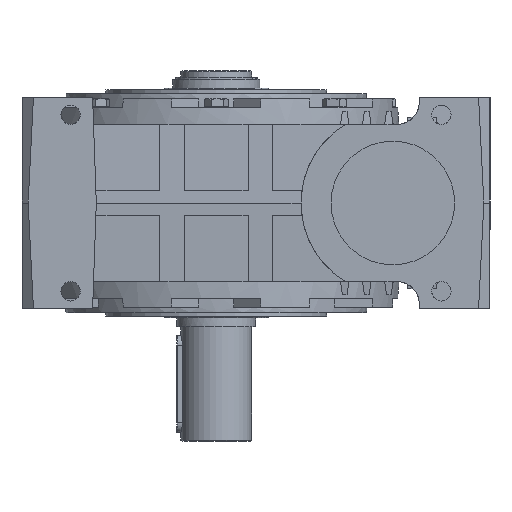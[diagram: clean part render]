
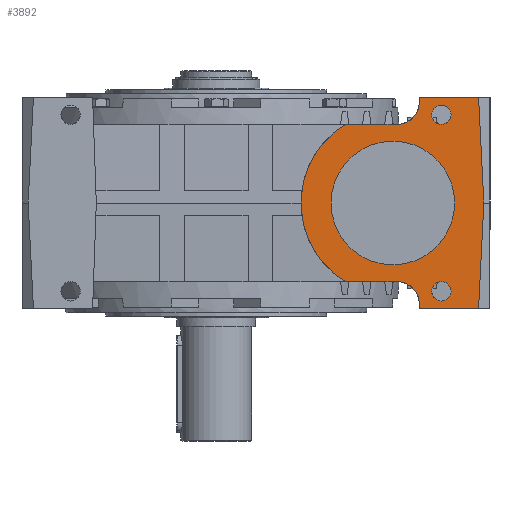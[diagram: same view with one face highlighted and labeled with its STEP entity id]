
A CAD part, left-side view. The second image highlights one B-rep face of the part: STEP entity #3892.
In plain terms, the highlighted planar face has unit normal (-1, 0, 0).
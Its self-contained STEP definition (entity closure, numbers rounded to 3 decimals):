
#179 = ORIENTED_EDGE ( 'NONE', *, *, #38904, .T. ) ;
#216 = DIRECTION ( 'NONE',  ( 0., 0., 1. ) ) ;
#803 = DIRECTION ( 'NONE',  ( 0., 0., 1. ) ) ;
#1051 = VERTEX_POINT ( 'NONE', #12705 ) ;
#1994 = AXIS2_PLACEMENT_3D ( 'NONE', #37428, #18966, #803 ) ;
#2609 = VECTOR ( 'NONE', #21041, 1000. ) ;
#2863 = LINE ( 'NONE', #5988, #2609 ) ;
#3107 = AXIS2_PLACEMENT_3D ( 'NONE', #31692, #13366, #34839 ) ;
#3398 = CARTESIAN_POINT ( 'NONE',  ( -220., -229.83, -113.128 ) ) ;
#3584 = CARTESIAN_POINT ( 'NONE',  ( -220., -204.845, 89. ) ) ;
#3892 = ADVANCED_FACE ( 'NONE', ( #31266, #31183, #31301, #31141 ), #22141, .T. ) ;
#4276 = CARTESIAN_POINT ( 'NONE',  ( -220., -96.253, 7.255 ) ) ;
#4312 = DIRECTION ( 'NONE',  ( 0., 0.035, -0.999 ) ) ;
#5036 = ORIENTED_EDGE ( 'NONE', *, *, #37507, .T. ) ;
#5295 = EDGE_CURVE ( 'NONE', #27912, #20663, #23610, .T. ) ;
#5395 = VERTEX_POINT ( 'NONE', #20271 ) ;
#5866 = VECTOR ( 'NONE', #24701, 1000. ) ;
#5894 = LINE ( 'NONE', #6545, #5866 ) ;
#5988 = CARTESIAN_POINT ( 'NONE',  ( -220., -96., 0. ) ) ;
#6167 = EDGE_LOOP ( 'NONE', ( #25550 ) ) ;
#6410 = LINE ( 'NONE', #8614, #6502 ) ;
#6502 = VECTOR ( 'NONE', #26807, 1000. ) ;
#6545 = CARTESIAN_POINT ( 'NONE',  ( -220., -297.074, -120. ) ) ;
#6802 = DIRECTION ( 'NONE',  ( 1., 0., 0. ) ) ;
#6970 = VERTEX_POINT ( 'NONE', #26951 ) ;
#6997 = CARTESIAN_POINT ( 'NONE',  ( -220., -200., 70. ) ) ;
#7123 = VERTEX_POINT ( 'NONE', #21519 ) ;
#7252 = CARTESIAN_POINT ( 'NONE',  ( -220., -255., -100. ) ) ;
#7326 = DIRECTION ( 'NONE',  ( 0., -1., 0. ) ) ;
#7625 = VERTEX_POINT ( 'NONE', #9639 ) ;
#7688 = ORIENTED_EDGE ( 'NONE', *, *, #11091, .T. ) ;
#7854 = ORIENTED_EDGE ( 'NONE', *, *, #18337, .T. ) ;
#8614 = CARTESIAN_POINT ( 'NONE',  ( -220., 220., -120. ) ) ;
#9135 = ORIENTED_EDGE ( 'NONE', *, *, #33436, .F. ) ;
#9326 = CARTESIAN_POINT ( 'NONE',  ( -220., -229.83, 113.128 ) ) ;
#9343 = EDGE_LOOP ( 'NONE', ( #7688, #37701, #10966, #23918, #23322, #27980, #17890, #28265, #36632, #179, #20025, #30659, #5036, #16032 ) ) ;
#9639 = CARTESIAN_POINT ( 'NONE',  ( -220., -297.074, 120. ) ) ;
#9803 = DIRECTION ( 'NONE',  ( 0., 0.035, -0.999 ) ) ;
#10310 = DIRECTION ( 'NONE',  ( 0., 0., 1. ) ) ;
#10459 = EDGE_CURVE ( 'NONE', #39428, #12838, #38537, .T. ) ;
#10720 = CARTESIAN_POINT ( 'NONE',  ( -220., -146.195, -89. ) ) ;
#10876 = VERTEX_POINT ( 'NONE', #3584 ) ;
#10966 = ORIENTED_EDGE ( 'NONE', *, *, #21116, .T. ) ;
#11091 = EDGE_CURVE ( 'NONE', #7625, #12855, #34487, .T. ) ;
#11420 = DIRECTION ( 'NONE',  ( 0., 1., 0. ) ) ;
#12644 = CARTESIAN_POINT ( 'NONE',  ( -220., -255., 100. ) ) ;
#12705 = CARTESIAN_POINT ( 'NONE',  ( -220., -303., 0. ) ) ;
#12838 = VERTEX_POINT ( 'NONE', #22915 ) ;
#12855 = VERTEX_POINT ( 'NONE', #19998 ) ;
#13170 = CARTESIAN_POINT ( 'NONE',  ( -220., 220., 120. ) ) ;
#13366 = DIRECTION ( 'NONE',  ( -1., 0., 0. ) ) ;
#13408 = CARTESIAN_POINT ( 'NONE',  ( -220., 0., 89. ) ) ;
#13556 = CARTESIAN_POINT ( 'NONE',  ( -220., -96.253, 7.255 ) ) ;
#13971 = CARTESIAN_POINT ( 'NONE',  ( -220., -204.845, 114. ) ) ;
#15178 = VECTOR ( 'NONE', #25891, 1000. ) ;
#15637 = CIRCLE ( 'NONE', #33051, 70. ) ;
#15690 = DIRECTION ( 'NONE',  ( 0., 0., 1. ) ) ;
#16032 = ORIENTED_EDGE ( 'NONE', *, *, #23030, .T. ) ;
#16039 = AXIS2_PLACEMENT_3D ( 'NONE', #7252, #28528, #10310 ) ;
#16090 = EDGE_CURVE ( 'NONE', #26402, #6970, #6410, .T. ) ;
#16213 = DIRECTION ( 'NONE',  ( 0., 0., 1. ) ) ;
#16598 = CARTESIAN_POINT ( 'NONE',  ( -220., -303., 0. ) ) ;
#17011 = DIRECTION ( 'NONE',  ( 0., 0., 1. ) ) ;
#17528 = LINE ( 'NONE', #16598, #15178 ) ;
#17890 = ORIENTED_EDGE ( 'NONE', *, *, #37966, .T. ) ;
#17980 = EDGE_CURVE ( 'NONE', #19459, #39428, #22906, .T. ) ;
#18063 = AXIS2_PLACEMENT_3D ( 'NONE', #24966, #6802, #28070 ) ;
#18337 = EDGE_CURVE ( 'NONE', #29230, #29230, #15637, .T. ) ;
#18382 = DIRECTION ( 'NONE',  ( 1., 0., 0. ) ) ;
#18966 = DIRECTION ( 'NONE',  ( -1., 0., 0. ) ) ;
#19459 = VERTEX_POINT ( 'NONE', #31566 ) ;
#19743 = CARTESIAN_POINT ( 'NONE',  ( -220., 220., -89. ) ) ;
#19998 = CARTESIAN_POINT ( 'NONE',  ( -220., -230.07, 120. ) ) ;
#20025 = ORIENTED_EDGE ( 'NONE', *, *, #24388, .T. ) ;
#20271 = CARTESIAN_POINT ( 'NONE',  ( -220., -229.83, -113.128 ) ) ;
#20424 = AXIS2_PLACEMENT_3D ( 'NONE', #12644, #34083, #15690 ) ;
#20663 = VERTEX_POINT ( 'NONE', #34462 ) ;
#21041 = DIRECTION ( 'NONE',  ( 0., -0.035, -0.999 ) ) ;
#21116 = EDGE_CURVE ( 'NONE', #23347, #10876, #39000, .T. ) ;
#21519 = CARTESIAN_POINT ( 'NONE',  ( -220., -96.253, -7.255 ) ) ;
#22141 = PLANE ( 'NONE',  #30747 ) ;
#22793 = DIRECTION ( 'NONE',  ( 0., -1., 0. ) ) ;
#22906 = CIRCLE ( 'NONE', #3107, 104. ) ;
#22915 = CARTESIAN_POINT ( 'NONE',  ( -220., -96., 0. ) ) ;
#23030 = EDGE_CURVE ( 'NONE', #1051, #7625, #17528, .T. ) ;
#23217 = CIRCLE ( 'NONE', #16039, 11. ) ;
#23322 = ORIENTED_EDGE ( 'NONE', *, *, #17980, .T. ) ;
#23347 = VERTEX_POINT ( 'NONE', #9326 ) ;
#23465 = EDGE_CURVE ( 'NONE', #7123, #27912, #38957, .T. ) ;
#23484 = VECTOR ( 'NONE', #22793, 1000. ) ;
#23610 = LINE ( 'NONE', #19743, #23484 ) ;
#23918 = ORIENTED_EDGE ( 'NONE', *, *, #25052, .F. ) ;
#24388 = EDGE_CURVE ( 'NONE', #5395, #26402, #34030, .T. ) ;
#24701 = DIRECTION ( 'NONE',  ( 0., -0.049, 0.999 ) ) ;
#24966 = CARTESIAN_POINT ( 'NONE',  ( -220., -204.845, -114. ) ) ;
#25052 = EDGE_CURVE ( 'NONE', #19459, #10876, #29754, .T. ) ;
#25550 = ORIENTED_EDGE ( 'NONE', *, *, #26302, .F. ) ;
#25891 = DIRECTION ( 'NONE',  ( 0., 0.049, 0.999 ) ) ;
#26134 = EDGE_LOOP ( 'NONE', ( #9135 ) ) ;
#26302 = EDGE_CURVE ( 'NONE', #28162, #28162, #23217, .T. ) ;
#26402 = VERTEX_POINT ( 'NONE', #38328 ) ;
#26807 = DIRECTION ( 'NONE',  ( 0., -1., 0. ) ) ;
#26809 = VERTEX_POINT ( 'NONE', #35236 ) ;
#26951 = CARTESIAN_POINT ( 'NONE',  ( -220., -297.074, -120. ) ) ;
#27826 = VECTOR ( 'NONE', #9803, 1000. ) ;
#27912 = VERTEX_POINT ( 'NONE', #10720 ) ;
#27980 = ORIENTED_EDGE ( 'NONE', *, *, #10459, .T. ) ;
#28070 = DIRECTION ( 'NONE',  ( 0., 0., 1. ) ) ;
#28099 = LINE ( 'NONE', #34278, #27826 ) ;
#28162 = VERTEX_POINT ( 'NONE', #34833 ) ;
#28265 = ORIENTED_EDGE ( 'NONE', *, *, #23465, .T. ) ;
#28528 = DIRECTION ( 'NONE',  ( -1., 0., 0. ) ) ;
#29230 = VERTEX_POINT ( 'NONE', #6997 ) ;
#29532 = VECTOR ( 'NONE', #7326, 1000. ) ;
#29754 = LINE ( 'NONE', #13408, #29532 ) ;
#30659 = ORIENTED_EDGE ( 'NONE', *, *, #16090, .T. ) ;
#30747 = AXIS2_PLACEMENT_3D ( 'NONE', #13170, #34625, #16213 ) ;
#31141 = FACE_BOUND ( 'NONE', #38313, .T. ) ;
#31183 = FACE_BOUND ( 'NONE', #26134, .T. ) ;
#31266 = FACE_BOUND ( 'NONE', #6167, .T. ) ;
#31301 = FACE_OUTER_BOUND ( 'NONE', #9343, .T. ) ;
#31566 = CARTESIAN_POINT ( 'NONE',  ( -220., -146.195, 89. ) ) ;
#31692 = CARTESIAN_POINT ( 'NONE',  ( -220., -200., 0. ) ) ;
#33051 = AXIS2_PLACEMENT_3D ( 'NONE', #36836, #18382, #216 ) ;
#33436 = EDGE_CURVE ( 'NONE', #26809, #26809, #36269, .T. ) ;
#34030 = LINE ( 'NONE', #3398, #34070 ) ;
#34070 = VECTOR ( 'NONE', #37209, 1000. ) ;
#34083 = DIRECTION ( 'NONE',  ( -1., 0., 0. ) ) ;
#34278 = CARTESIAN_POINT ( 'NONE',  ( -220., -230.07, 120. ) ) ;
#34449 = VECTOR ( 'NONE', #11420, 1000. ) ;
#34462 = CARTESIAN_POINT ( 'NONE',  ( -220., -204.845, -89. ) ) ;
#34478 = EDGE_CURVE ( 'NONE', #12855, #23347, #28099, .T. ) ;
#34487 = LINE ( 'NONE', #35937, #34449 ) ;
#34625 = DIRECTION ( 'NONE',  ( -1., 0., 0. ) ) ;
#34833 = CARTESIAN_POINT ( 'NONE',  ( -220., -255., -89. ) ) ;
#34839 = DIRECTION ( 'NONE',  ( 0., 0., 1. ) ) ;
#35236 = CARTESIAN_POINT ( 'NONE',  ( -220., -255., 111. ) ) ;
#35457 = DIRECTION ( 'NONE',  ( 1., 0., 0. ) ) ;
#35937 = CARTESIAN_POINT ( 'NONE',  ( -220., 220., 120. ) ) ;
#36269 = CIRCLE ( 'NONE', #20424, 11. ) ;
#36632 = ORIENTED_EDGE ( 'NONE', *, *, #5295, .T. ) ;
#36836 = CARTESIAN_POINT ( 'NONE',  ( -220., -200., 0. ) ) ;
#36965 = CIRCLE ( 'NONE', #18063, 25. ) ;
#37209 = DIRECTION ( 'NONE',  ( 0., -0.035, -0.999 ) ) ;
#37428 = CARTESIAN_POINT ( 'NONE',  ( -220., -200., 0. ) ) ;
#37507 = EDGE_CURVE ( 'NONE', #6970, #1051, #5894, .T. ) ;
#37701 = ORIENTED_EDGE ( 'NONE', *, *, #34478, .T. ) ;
#37966 = EDGE_CURVE ( 'NONE', #12838, #7123, #2863, .T. ) ;
#38313 = EDGE_LOOP ( 'NONE', ( #7854 ) ) ;
#38328 = CARTESIAN_POINT ( 'NONE',  ( -220., -230.07, -120. ) ) ;
#38410 = VECTOR ( 'NONE', #4312, 1000. ) ;
#38537 = LINE ( 'NONE', #13556, #38410 ) ;
#38904 = EDGE_CURVE ( 'NONE', #20663, #5395, #36965, .T. ) ;
#38957 = CIRCLE ( 'NONE', #1994, 104. ) ;
#39000 = CIRCLE ( 'NONE', #39072, 25. ) ;
#39072 = AXIS2_PLACEMENT_3D ( 'NONE', #13971, #35457, #17011 ) ;
#39428 = VERTEX_POINT ( 'NONE', #4276 ) ;
